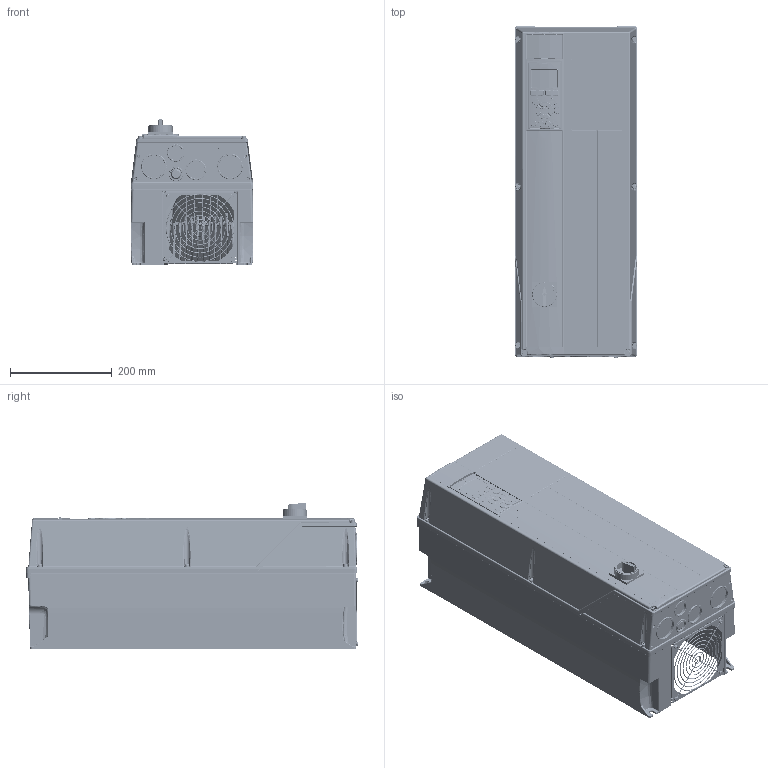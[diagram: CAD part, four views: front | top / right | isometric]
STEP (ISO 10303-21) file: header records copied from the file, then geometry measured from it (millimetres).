
FILE_DESCRIPTION((''),'2;1');
FILE_NAME('DANFOSS-FC100-B2-SWITCH','2011-11-09T',('cstephenkumar'),('Be-Atch INC. 1993'),'PRO/ENGINEER BY PARAMETRIC TECHNOLOGY CORPORATION, 2009360','PRO/ENGINEER BY PARAMETRIC TECHNOLOGY CORPORATION, 2009360','');
FILE_SCHEMA(('AUTOMOTIVE_DESIGN { 1 0 10303 214 1 1 1 1 }'));
Products named in the file (1): DANFOSS-FC100-B2-SWITCH
Bounding box: 242 x 653.31 x 288.81 mm (x, y, z)
Volume: 26199611.1 mm3; surface area: 2580480.3 mm2
Topology: 1 solids, 21 shells, 6813 faces, 16847 edges, 10132 vertices
Faces by surface type: cylinder 2383, plane 1845, bspline 1770, torus 389, cone 189, sphere 130, extrusion 107
Entity records: 312430 total; most frequent: CARTESIAN_POINT 165093, ORIENTED_EDGE 33558, DIRECTION 25709, EDGE_CURVE 16779, VERTEX_POINT 10132, AXIS2_PLACEMENT_3D 9236, VECTOR 7237, LINE 7130
